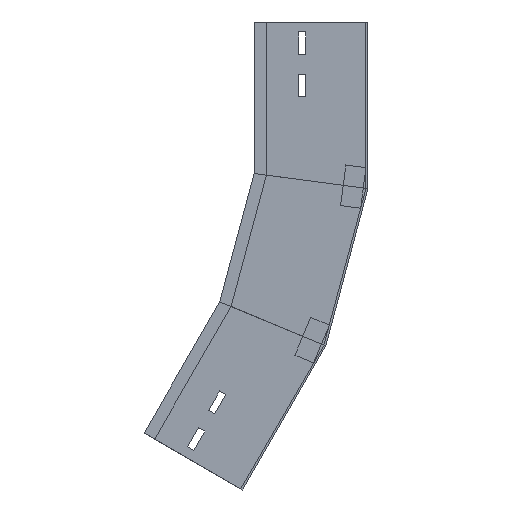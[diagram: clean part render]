
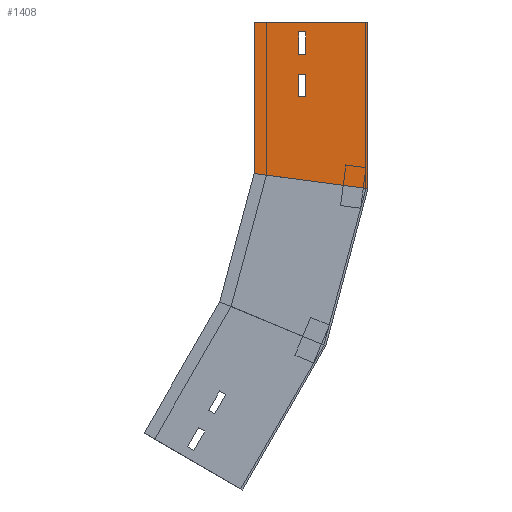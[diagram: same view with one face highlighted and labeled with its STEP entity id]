
A CAD part, left-side view. The second image highlights one B-rep face of the part: STEP entity #1408.
In plain terms, the highlighted planar face has unit normal (-1, 0, 0) as drawn and (1, 0, 0) by its records, which use the part's own axes.
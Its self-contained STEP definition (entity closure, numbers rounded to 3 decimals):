
#1 = EDGE_CURVE ( 'NONE', #34, #222, #908, .T. ) ;
#14 = CARTESIAN_POINT ( 'NONE',  ( 0., 167.349, -400.745 ) ) ;
#34 = VERTEX_POINT ( 'NONE', #411 ) ;
#80 = VERTEX_POINT ( 'NONE', #134 ) ;
#92 = VERTEX_POINT ( 'NONE', #1381 ) ;
#95 = EDGE_CURVE ( 'NONE', #590, #1254, #491, .T. ) ;
#109 = FACE_OUTER_BOUND ( 'NONE', #1473, .T. ) ;
#117 = DIRECTION ( 'NONE',  ( 0., -0.866, -0.5 ) ) ;
#129 = LINE ( 'NONE', #14, #387 ) ;
#130 = EDGE_CURVE ( 'NONE', #1320, #80, #529, .T. ) ;
#134 = CARTESIAN_POINT ( 'NONE',  ( 0., 123.944, -462.565 ) ) ;
#137 = EDGE_CURVE ( 'NONE', #279, #92, #912, .T. ) ;
#145 = VECTOR ( 'NONE', #864, 1000. ) ;
#161 = DIRECTION ( 'NONE',  ( 0., -0.924, -0.383 ) ) ;
#184 = VECTOR ( 'NONE', #748, 1000. ) ;
#222 = VERTEX_POINT ( 'NONE', #832 ) ;
#223 = ORIENTED_EDGE ( 'NONE', *, *, #1448, .F. ) ;
#226 = EDGE_CURVE ( 'NONE', #92, #590, #1063, .T. ) ;
#244 = EDGE_CURVE ( 'NONE', #1007, #1320, #1284, .T. ) ;
#272 = VECTOR ( 'NONE', #575, 1000. ) ;
#279 = VERTEX_POINT ( 'NONE', #292 ) ;
#292 = CARTESIAN_POINT ( 'NONE',  ( 0., 161.287, -404.245 ) ) ;
#306 = CARTESIAN_POINT ( 'NONE',  ( 0., 151.452, -387.211 ) ) ;
#314 = VECTOR ( 'NONE', #1474, 1000. ) ;
#335 = CARTESIAN_POINT ( 'NONE',  ( 0., 140.452, -368.158 ) ) ;
#361 = DIRECTION ( 'NONE',  ( 0., -0.5, 0.866 ) ) ;
#368 = CARTESIAN_POINT ( 'NONE',  ( 0., 146.477, -276.594 ) ) ;
#387 = VECTOR ( 'NONE', #117, 1000. ) ;
#411 = CARTESIAN_POINT ( 'NONE',  ( 0., 157.514, -383.711 ) ) ;
#428 = ORIENTED_EDGE ( 'NONE', *, *, #1, .F. ) ;
#441 = CARTESIAN_POINT ( 'NONE',  ( 0., 157.514, -383.711 ) ) ;
#459 = DIRECTION ( 'NONE',  ( 0., 0.5, -0.866 ) ) ;
#470 = ORIENTED_EDGE ( 'NONE', *, *, #915, .F. ) ;
#472 = DIRECTION ( 'NONE',  ( -1., 0., 0. ) ) ;
#491 = LINE ( 'NONE', #943, #807 ) ;
#498 = EDGE_CURVE ( 'NONE', #80, #1426, #1400, .T. ) ;
#513 = ORIENTED_EDGE ( 'NONE', *, *, #95, .F. ) ;
#523 = DIRECTION ( 'NONE',  ( 0., 0., 1. ) ) ;
#529 = LINE ( 'NONE', #1131, #733 ) ;
#562 = CARTESIAN_POINT ( 'NONE',  ( 0., 146.514, -364.658 ) ) ;
#575 = DIRECTION ( 'NONE',  ( 0., -0.5, 0.866 ) ) ;
#590 = VERTEX_POINT ( 'NONE', #1044 ) ;
#592 = CARTESIAN_POINT ( 'NONE',  ( 0., 41.644, -320.017 ) ) ;
#597 = VERTEX_POINT ( 'NONE', #306 ) ;
#624 = EDGE_CURVE ( 'NONE', #1220, #597, #1102, .T. ) ;
#657 = CARTESIAN_POINT ( 'NONE',  ( 0., 151.452, -387.211 ) ) ;
#666 = VECTOR ( 'NONE', #459, 1000. ) ;
#682 = LINE ( 'NONE', #562, #314 ) ;
#707 = DIRECTION ( 'NONE',  ( 0., 0.866, 0.5 ) ) ;
#728 = DIRECTION ( 'NONE',  ( 0., 0.866, 0.5 ) ) ;
#733 = VECTOR ( 'NONE', #890, 1000. ) ;
#741 = ORIENTED_EDGE ( 'NONE', *, *, #226, .F. ) ;
#747 = ORIENTED_EDGE ( 'NONE', *, *, #498, .T. ) ;
#748 = DIRECTION ( 'NONE',  ( 0., 0.5, -0.866 ) ) ;
#752 = CARTESIAN_POINT ( 'NONE',  ( 0., 221.372, -406.315 ) ) ;
#775 = VECTOR ( 'NONE', #161, 1000. ) ;
#784 = CARTESIAN_POINT ( 'NONE',  ( 0., 172.287, -423.298 ) ) ;
#797 = EDGE_CURVE ( 'NONE', #222, #1220, #682, .T. ) ;
#807 = VECTOR ( 'NONE', #361, 1000. ) ;
#832 = CARTESIAN_POINT ( 'NONE',  ( 0., 146.514, -364.658 ) ) ;
#837 = VECTOR ( 'NONE', #1166, 1000. ) ;
#864 = DIRECTION ( 'NONE',  ( 0., 0.5, -0.866 ) ) ;
#886 = ORIENTED_EDGE ( 'NONE', *, *, #130, .T. ) ;
#890 = DIRECTION ( 'NONE',  ( 0., 0.5, -0.866 ) ) ;
#906 = EDGE_CURVE ( 'NONE', #597, #34, #1385, .T. ) ;
#908 = LINE ( 'NONE', #441, #272 ) ;
#912 = LINE ( 'NONE', #784, #666 ) ;
#915 = EDGE_CURVE ( 'NONE', #1254, #279, #129, .T. ) ;
#943 = CARTESIAN_POINT ( 'NONE',  ( 0., 178.349, -419.798 ) ) ;
#946 = CARTESIAN_POINT ( 'NONE',  ( 0., 157.514, -383.711 ) ) ;
#981 = ORIENTED_EDGE ( 'NONE', *, *, #906, .F. ) ;
#1007 = VERTEX_POINT ( 'NONE', #368 ) ;
#1018 = ORIENTED_EDGE ( 'NONE', *, *, #624, .F. ) ;
#1042 = PLANE ( 'NONE',  #1454 ) ;
#1044 = CARTESIAN_POINT ( 'NONE',  ( 0., 178.349, -419.798 ) ) ;
#1063 = LINE ( 'NONE', #1181, #1313 ) ;
#1064 = LINE ( 'NONE', #1312, #145 ) ;
#1087 = CARTESIAN_POINT ( 'NONE',  ( 0., 61.047, -311.98 ) ) ;
#1102 = LINE ( 'NONE', #657, #184 ) ;
#1131 = CARTESIAN_POINT ( 'NONE',  ( 0., 41.644, -320.017 ) ) ;
#1153 = FACE_BOUND ( 'NONE', #1174, .T. ) ;
#1166 = DIRECTION ( 'NONE',  ( 0., 0.866, 0.5 ) ) ;
#1168 = CARTESIAN_POINT ( 'NONE',  ( 0., 123.944, -462.565 ) ) ;
#1174 = EDGE_LOOP ( 'NONE', ( #428, #981, #1018, #1476 ) ) ;
#1181 = CARTESIAN_POINT ( 'NONE',  ( 0., 178.349, -419.798 ) ) ;
#1220 = VERTEX_POINT ( 'NONE', #335 ) ;
#1225 = CARTESIAN_POINT ( 'NONE',  ( 0., 167.349, -400.745 ) ) ;
#1231 = ORIENTED_EDGE ( 'NONE', *, *, #244, .T. ) ;
#1254 = VERTEX_POINT ( 'NONE', #1225 ) ;
#1277 = FACE_BOUND ( 'NONE', #1308, .T. ) ;
#1284 = LINE ( 'NONE', #1087, #775 ) ;
#1308 = EDGE_LOOP ( 'NONE', ( #513, #741, #1414, #470 ) ) ;
#1312 = CARTESIAN_POINT ( 'NONE',  ( 0., 139.072, -263.767 ) ) ;
#1313 = VECTOR ( 'NONE', #728, 1000. ) ;
#1320 = VERTEX_POINT ( 'NONE', #1382 ) ;
#1332 = VECTOR ( 'NONE', #707, 1000. ) ;
#1381 = CARTESIAN_POINT ( 'NONE',  ( 0., 172.287, -423.298 ) ) ;
#1382 = CARTESIAN_POINT ( 'NONE',  ( 0., 41.644, -320.017 ) ) ;
#1385 = LINE ( 'NONE', #946, #837 ) ;
#1400 = LINE ( 'NONE', #1168, #1332 ) ;
#1408 = ADVANCED_FACE ( 'NONE', ( #1277, #1153, #109 ), #1042, .F. ) ;
#1414 = ORIENTED_EDGE ( 'NONE', *, *, #137, .F. ) ;
#1426 = VERTEX_POINT ( 'NONE', #752 ) ;
#1448 = EDGE_CURVE ( 'NONE', #1007, #1426, #1064, .T. ) ;
#1454 = AXIS2_PLACEMENT_3D ( 'NONE', #592, #472, #523 ) ;
#1473 = EDGE_LOOP ( 'NONE', ( #1231, #886, #747, #223 ) ) ;
#1474 = DIRECTION ( 'NONE',  ( 0., -0.866, -0.5 ) ) ;
#1476 = ORIENTED_EDGE ( 'NONE', *, *, #797, .F. ) ;
